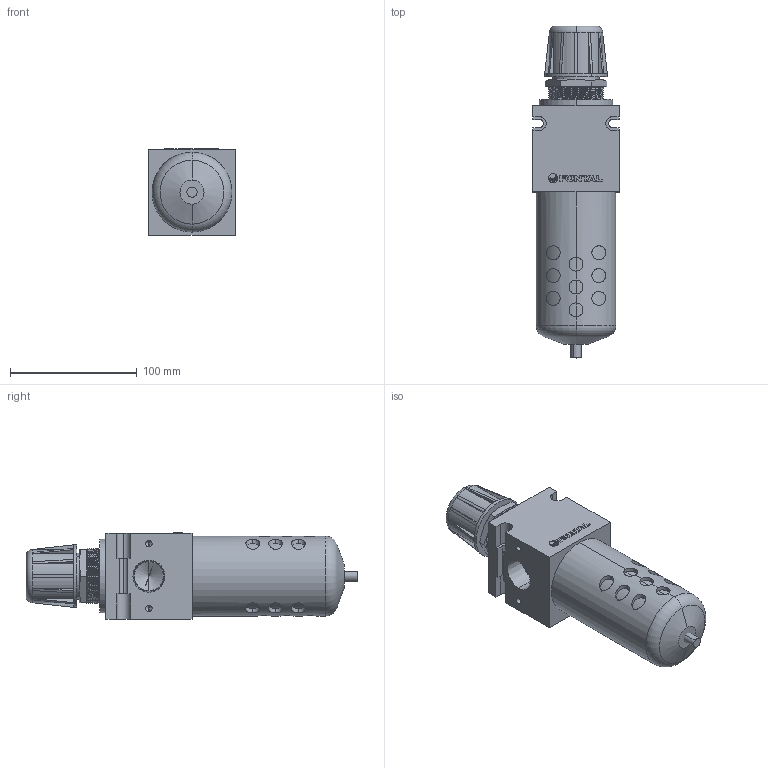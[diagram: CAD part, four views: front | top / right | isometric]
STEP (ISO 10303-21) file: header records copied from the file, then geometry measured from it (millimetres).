
FILE_DESCRIPTION (( 'STEP AP203' ), '1' );
FILE_NAME ('B105#-06#Y##.STEP', '2016-02-03T08:03:09', ( '' ), ( '' ), 'SwSTEP 2.0', 'SolidWorks 2014', '' );
FILE_SCHEMA (( 'CONFIG_CONTROL_DESIGN' ));
Length unit declared in the file: millimetre
Products named in the file (10): R010-4; F105-MARK; F105-06; F105-2; R105-2; R105-6; R105-3; R105-06; B105#-06#Y##
Assembly tree (9 placements, depth 3):
  B105#-06#Y##
    R010-4
    R105-3
    R105-2
    R105-6
    F105-06
      F105-2
      (unnamed)
      F105-MARK
      R105-06
Bounding box: 68 x 262 x 68.2 mm (x, y, z)
Volume: 728133 mm3; surface area: 91356.2 mm2
Topology: 14 solids, 14 shells, 365 faces, 907 edges, 579 vertices
Faces by surface type: plane 185, cylinder 140, cone 26, bspline 10, torus 4
Entity records: 15533 total; most frequent: CARTESIAN_POINT 6065, ORIENTED_EDGE 1790, DIRECTION 1665, EDGE_CURVE 895, VERTEX_POINT 579, AXIS2_PLACEMENT_3D 566, LINE 533, VECTOR 533
